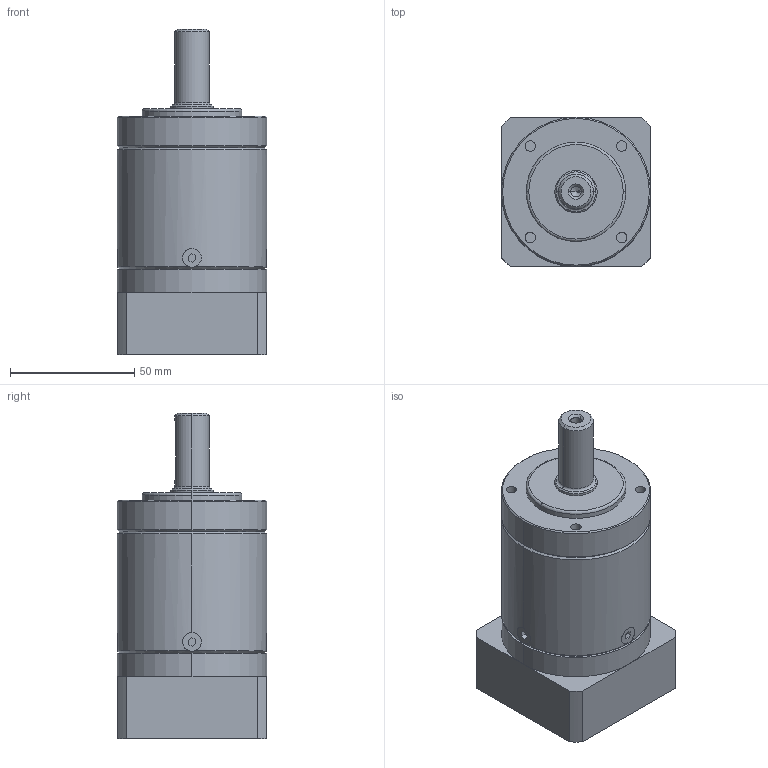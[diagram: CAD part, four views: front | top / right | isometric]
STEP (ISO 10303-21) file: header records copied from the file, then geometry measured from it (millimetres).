
FILE_DESCRIPTION (( 'STEP AP214' ), '1' );
FILE_NAME ('PLE-060-L2-S2-P2 14-50-70-M4.STEP', '2024-02-03T06:04:48', ( '微软用户' ), ( '微软中国' ), 'SwSTEP 2.0', 'SolidWorks 2018', '' );
FILE_SCHEMA (( 'AUTOMOTIVE_DESIGN' ));
Length unit declared in the file: millimetre
Products named in the file (1): PLE-060-L2-S2-P2 14-50-70-M4
Bounding box: 60 x 60 x 131 mm (x, y, z)
Volume: 272817.4 mm3; surface area: 34968.2 mm2
Topology: 1 solids, 1 shells, 138 faces, 323 edges, 205 vertices
Faces by surface type: plane 65, cylinder 53, cone 16, torus 4
Entity records: 4295 total; most frequent: CARTESIAN_POINT 1020, DIRECTION 697, ORIENTED_EDGE 642, EDGE_CURVE 321, AXIS2_PLACEMENT_3D 260, VERTEX_POINT 205, LINE 177, VECTOR 177
